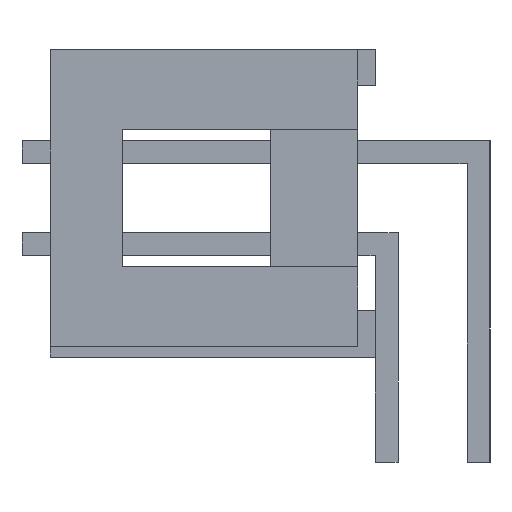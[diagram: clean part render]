
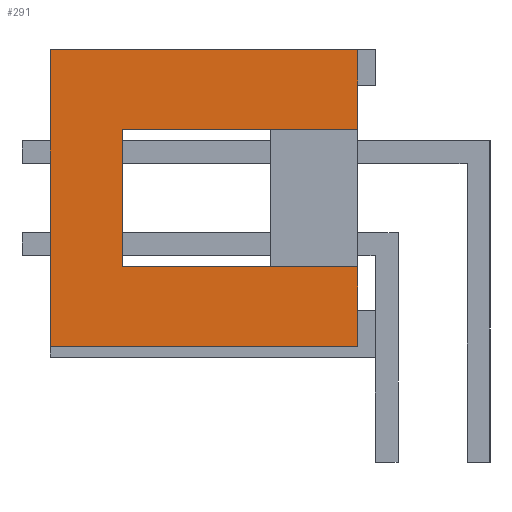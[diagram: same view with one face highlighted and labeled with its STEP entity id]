
A CAD part, left-side view. The second image highlights one B-rep face of the part: STEP entity #291.
In plain terms, the highlighted planar face has unit normal (-1, 0, 0).
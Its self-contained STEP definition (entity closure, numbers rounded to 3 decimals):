
#291=ADVANCED_FACE('',(#815),#816,.F.);
#815=FACE_OUTER_BOUND('',#1339,.T.);
#816=PLANE('',#1340);
#1339=EDGE_LOOP('',(#3356,#3357,#3358,#3359,#3360,#3361,#3362,#3363));
#1340=AXIS2_PLACEMENT_3D('',#3364,#3365,#3366);
#3356=ORIENTED_EDGE('',*,*,#3999,.T.);
#3357=ORIENTED_EDGE('',*,*,#3535,.F.);
#3358=ORIENTED_EDGE('',*,*,#3911,.F.);
#3359=ORIENTED_EDGE('',*,*,#3949,.T.);
#3360=ORIENTED_EDGE('',*,*,#3986,.F.);
#3361=ORIENTED_EDGE('',*,*,#3539,.F.);
#3362=ORIENTED_EDGE('',*,*,#4006,.T.);
#3363=ORIENTED_EDGE('',*,*,#4003,.T.);
#3364=CARTESIAN_POINT('',(-13.8,4.25,0.0));
#3365=DIRECTION('',(1.0,0.0,0.0));
#3366=DIRECTION('',(0.0,0.0,-1.0));
#3535=EDGE_CURVE('',#4326,#4328,#4329,.T.);
#3539=EDGE_CURVE('',#4334,#4336,#4337,.T.);
#3911=EDGE_CURVE('',#4934,#4326,#4936,.T.);
#3949=EDGE_CURVE('',#4934,#4997,#4999,.T.);
#3986=EDGE_CURVE('',#4336,#4997,#5050,.T.);
#3999=EDGE_CURVE('',#5067,#4328,#5068,.T.);
#4003=EDGE_CURVE('',#5074,#5067,#5075,.T.);
#4006=EDGE_CURVE('',#4334,#5074,#5078,.T.);
#4326=VERTEX_POINT('',#5565);
#4328=VERTEX_POINT('',#5568);
#4329=LINE('',#5569,#5570);
#4334=VERTEX_POINT('',#5577);
#4336=VERTEX_POINT('',#5580);
#4337=LINE('',#5581,#5582);
#4934=VERTEX_POINT('',#6549);
#4936=LINE('',#6552,#6553);
#4997=VERTEX_POINT('',#6650);
#4999=LINE('',#6653,#6654);
#5050=LINE('',#6741,#6742);
#5067=VERTEX_POINT('',#6771);
#5068=LINE('',#6772,#6773);
#5074=VERTEX_POINT('',#6782);
#5075=LINE('',#6783,#6784);
#5078=LINE('',#6789,#6790);
#5565=CARTESIAN_POINT('',(-13.8,0.0,4.1));
#5568=CARTESIAN_POINT('',(-13.8,0.0,1.9));
#5569=CARTESIAN_POINT('',(-13.8,0.0,0.0));
#5570=VECTOR('',#6967,1.0);
#5577=CARTESIAN_POINT('',(-13.8,0.0,-1.9));
#5580=CARTESIAN_POINT('',(-13.8,0.0,-4.1));
#5581=CARTESIAN_POINT('',(-13.8,0.0,0.0));
#5582=VECTOR('',#6971,1.0);
#6549=CARTESIAN_POINT('',(-13.8,8.5,4.1));
#6552=CARTESIAN_POINT('',(-13.8,4.25,4.1));
#6553=VECTOR('',#7343,1.0);
#6650=CARTESIAN_POINT('',(-13.8,8.5,-4.1));
#6653=CARTESIAN_POINT('',(-13.8,8.5,0.0));
#6654=VECTOR('',#7381,1.0);
#6741=CARTESIAN_POINT('',(-13.8,4.25,-4.1));
#6742=VECTOR('',#7418,1.0);
#6771=CARTESIAN_POINT('',(-13.8,6.5,1.9));
#6772=CARTESIAN_POINT('',(-13.8,3.375,1.9));
#6773=VECTOR('',#7431,1.0);
#6782=CARTESIAN_POINT('',(-13.8,6.5,-1.9));
#6783=CARTESIAN_POINT('',(-13.8,6.5,0.0));
#6784=VECTOR('',#7435,1.0);
#6789=CARTESIAN_POINT('',(-13.8,3.375,-1.9));
#6790=VECTOR('',#7438,1.0);
#6967=DIRECTION('',(0.0,0.0,-1.0));
#6971=DIRECTION('',(0.0,0.0,-1.0));
#7343=DIRECTION('',(0.0,-1.0,0.0));
#7381=DIRECTION('',(0.0,0.0,-1.0));
#7418=DIRECTION('',(0.0,1.0,0.0));
#7431=DIRECTION('',(0.0,-1.0,0.0));
#7435=DIRECTION('',(-0.0,0.0,1.0));
#7438=DIRECTION('',(0.0,1.0,0.0));
